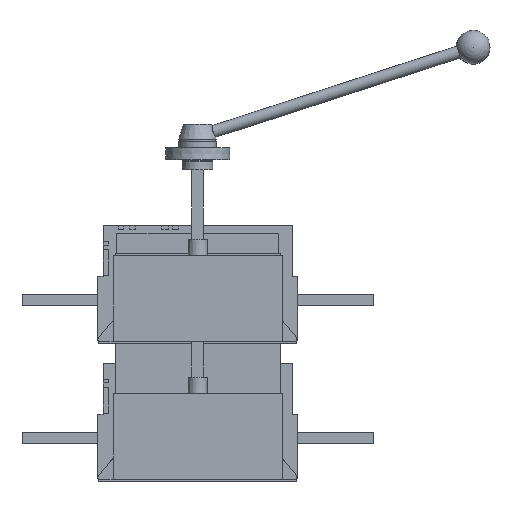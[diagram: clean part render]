
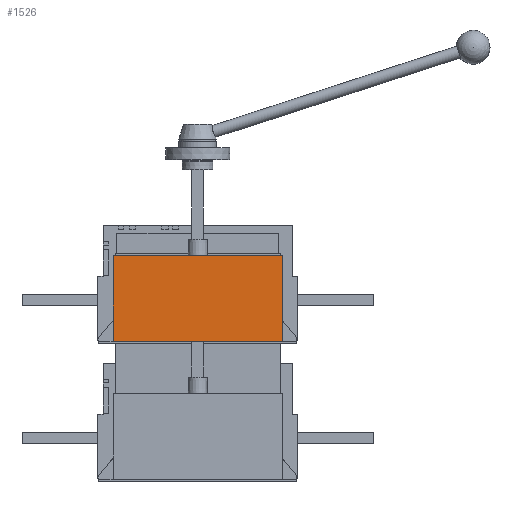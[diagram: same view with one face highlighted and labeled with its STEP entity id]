
A CAD part, left-side view. The second image highlights one B-rep face of the part: STEP entity #1526.
In plain terms, the highlighted planar face has unit normal (-1, 0, 0).
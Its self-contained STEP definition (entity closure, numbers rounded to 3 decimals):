
#182 = LINE ( 'NONE', #18322, #21523 ) ;
#371 = EDGE_CURVE ( 'NONE', #25204, #1262, #8614, .T. ) ;
#877 = DIRECTION ( 'NONE',  ( 0., 0., 1. ) ) ;
#1026 = CARTESIAN_POINT ( 'NONE',  ( -233.929, -89.5, 148.5 ) ) ;
#1088 = CARTESIAN_POINT ( 'NONE',  ( -233.929, -89.5, 148.5 ) ) ;
#1262 = VERTEX_POINT ( 'NONE', #18071 ) ;
#1523 = CARTESIAN_POINT ( 'NONE',  ( -233.929, 89.5, 239.5 ) ) ;
#1526 = ADVANCED_FACE ( 'NONE', ( #15367 ), #16758, .T. ) ;
#1861 = CARTESIAN_POINT ( 'NONE',  ( -233.929, 89.5, 148.5 ) ) ;
#2547 = VERTEX_POINT ( 'NONE', #1523 ) ;
#2734 = VECTOR ( 'NONE', #7864, 1000. ) ;
#3044 = EDGE_LOOP ( 'NONE', ( #29494, #10266, #19906, #23129 ) ) ;
#4879 = AXIS2_PLACEMENT_3D ( 'NONE', #1026, #23958, #14767 ) ;
#6453 = CARTESIAN_POINT ( 'NONE',  ( -233.929, -89.5, 148.5 ) ) ;
#6842 = VECTOR ( 'NONE', #16992, 1000. ) ;
#7864 = DIRECTION ( 'NONE',  ( 0., 0., 1. ) ) ;
#8614 = LINE ( 'NONE', #1088, #11858 ) ;
#8850 = LINE ( 'NONE', #21949, #2734 ) ;
#10266 = ORIENTED_EDGE ( 'NONE', *, *, #18060, .F. ) ;
#11858 = VECTOR ( 'NONE', #877, 1000. ) ;
#12098 = CARTESIAN_POINT ( 'NONE',  ( -233.929, -89.5, 239.5 ) ) ;
#12236 = LINE ( 'NONE', #12098, #6842 ) ;
#14767 = DIRECTION ( 'NONE',  ( 0., 0., 1. ) ) ;
#14910 = EDGE_CURVE ( 'NONE', #25204, #27234, #182, .T. ) ;
#15367 = FACE_OUTER_BOUND ( 'NONE', #3044, .T. ) ;
#16758 = PLANE ( 'NONE',  #4879 ) ;
#16992 = DIRECTION ( 'NONE',  ( 0., 1., 0. ) ) ;
#18060 = EDGE_CURVE ( 'NONE', #27234, #2547, #8850, .T. ) ;
#18071 = CARTESIAN_POINT ( 'NONE',  ( -233.929, -89.5, 239.5 ) ) ;
#18322 = CARTESIAN_POINT ( 'NONE',  ( -233.929, -89.5, 148.5 ) ) ;
#18425 = DIRECTION ( 'NONE',  ( 0., 1., 0. ) ) ;
#19906 = ORIENTED_EDGE ( 'NONE', *, *, #14910, .F. ) ;
#21523 = VECTOR ( 'NONE', #18425, 1000. ) ;
#21949 = CARTESIAN_POINT ( 'NONE',  ( -233.929, 89.5, 148.5 ) ) ;
#22210 = EDGE_CURVE ( 'NONE', #1262, #2547, #12236, .T. ) ;
#23129 = ORIENTED_EDGE ( 'NONE', *, *, #371, .T. ) ;
#23958 = DIRECTION ( 'NONE',  ( -1., 0., 0. ) ) ;
#25204 = VERTEX_POINT ( 'NONE', #6453 ) ;
#27234 = VERTEX_POINT ( 'NONE', #1861 ) ;
#29494 = ORIENTED_EDGE ( 'NONE', *, *, #22210, .T. ) ;
